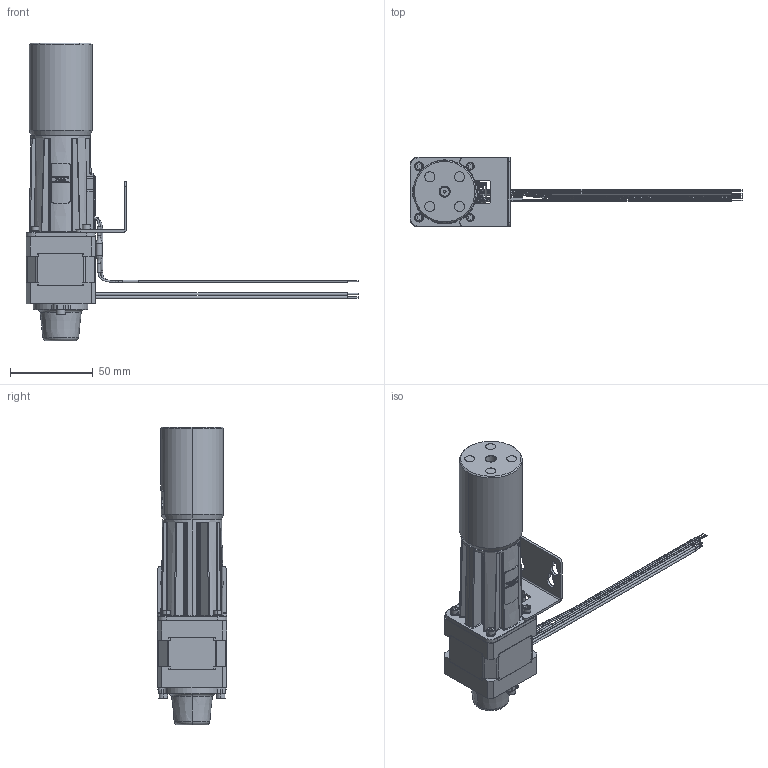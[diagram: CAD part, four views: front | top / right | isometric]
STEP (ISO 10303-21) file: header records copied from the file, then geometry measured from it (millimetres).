
FILE_DESCRIPTION (( 'STEP AP214' ), '1' );
FILE_NAME ('Lee-LPD_Series_SP_PMMA_3000µL-CAD_Model A1.step', '2021-03-30T13:31:06', ( '' ), ( '' ), 'SwSTEP 2.0', 'SolidWorks 2021', '' );
FILE_SCHEMA (( 'AUTOMOTIVE_DESIGN' ));
Length unit declared in the file: inch
Products named in the file (1): Lee-LPD_Series_SP_PMMA_3000無-CAD_Model A1
Bounding box: 200.66 x 41.91 x 180.09 mm (x, y, z)
Volume: 209679.2 mm3; surface area: 38803.7 mm2
Topology: 1 solids, 1 shells, 1262 faces, 3242 edges, 2072 vertices
Faces by surface type: plane 447, bspline 397, cylinder 328, torus 49, cone 37, sphere 4
Entity records: 69848 total; most frequent: CARTESIAN_POINT 31495, ORIENTED_EDGE 6444, DIRECTION 4583, EDGE_CURVE 3222, VERTEX_POINT 2072, AXIS2_PLACEMENT_3D 1711, EDGE_LOOP 1386, FACE_OUTER_BOUND 1262
